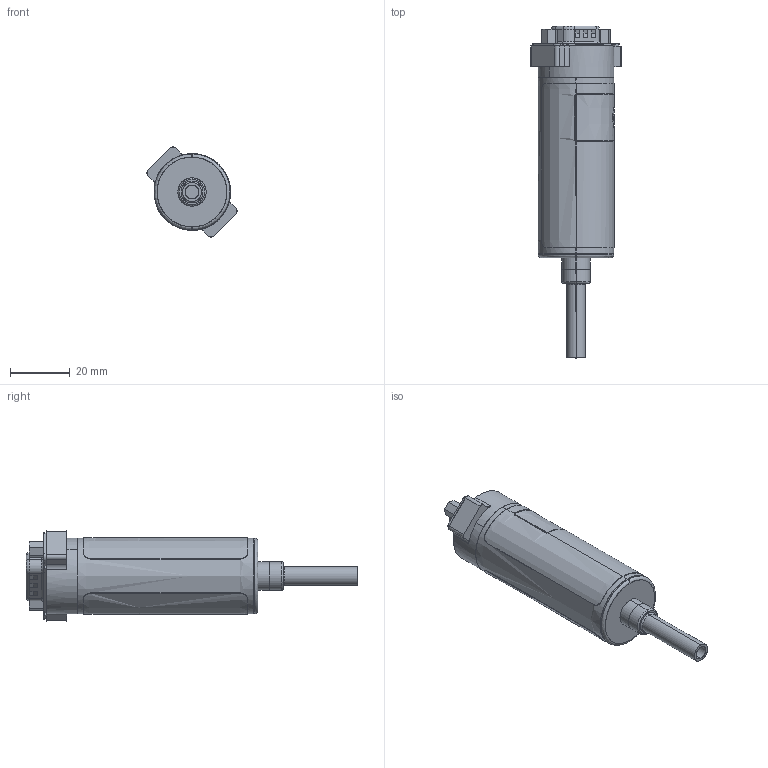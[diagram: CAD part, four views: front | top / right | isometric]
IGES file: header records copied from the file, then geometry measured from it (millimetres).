
Start section: SolidWorks IGES file using analytic representation for surfaces
Global section: file name: R:\Brooks Instrument\25-0024 SSII CAD File Generation\Client Files\SSII CAD Models for Website\CAD for Brooks Website\Example\GSD\GSD-XXXXXX-K-XXX-4S\IGES\GSD-XXXXXX-K-XXX-4S.IGS; native system: SolidWorks 2023; preprocessor: SolidWorks 2023; author: dgoddard; date: 250623.105220; units: inch
Bounding box: 30.23 x 111.32 x 30.23 mm (x, y, z)
Surface area: 15488.2 mm2 (no closed solid volume)
Topology: 0 solids, 0 shells, 536 faces, 5136 edges, 5132 vertices
Faces by surface type: bspline 309, revolution 227
